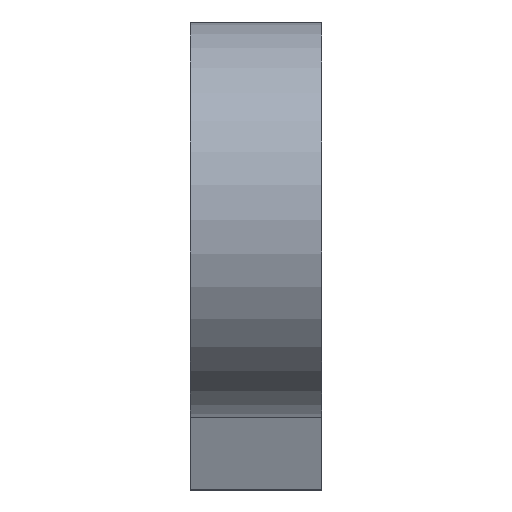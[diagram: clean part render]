
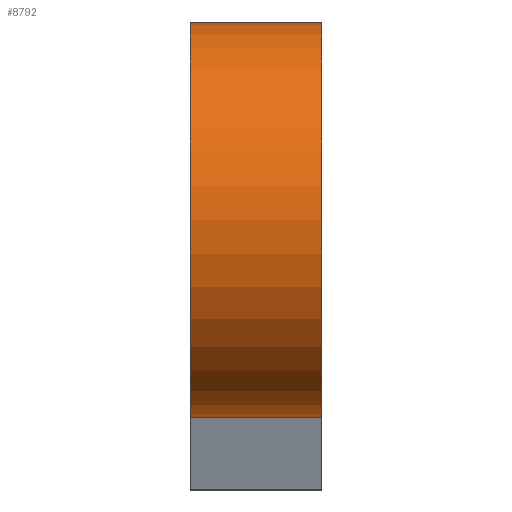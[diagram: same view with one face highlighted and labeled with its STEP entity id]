
A CAD part, left-side view. The second image highlights one B-rep face of the part: STEP entity #8792.
In plain terms, the highlighted cylindrical face has radius 4.763 mm (diameter 9.525 mm), a partial arc.
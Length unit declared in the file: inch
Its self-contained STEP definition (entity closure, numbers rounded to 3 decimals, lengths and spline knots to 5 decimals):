
#90 = ORIENTED_EDGE ( 'NONE', *, *, #9623, .F. ) ;
#205 = DIRECTION ( 'NONE',  ( 0., 1., 0. ) ) ;
#431 = AXIS2_PLACEMENT_3D ( 'NONE', #3101, #12238, #8604 ) ;
#798 = VERTEX_POINT ( 'NONE', #9430 ) ;
#1843 = VECTOR ( 'NONE', #15709, 39.37008 ) ;
#2014 = CIRCLE ( 'NONE', #6034, 0.1875 ) ;
#2235 = LINE ( 'NONE', #12896, #1843 ) ;
#3044 = CARTESIAN_POINT ( 'NONE',  ( -5.78, 0., -0.1875 ) ) ;
#3075 = CARTESIAN_POINT ( 'NONE',  ( -5.78, 0.125, 0.1875 ) ) ;
#3101 = CARTESIAN_POINT ( 'NONE',  ( -5.78, 0.125, 0. ) ) ;
#3228 = AXIS2_PLACEMENT_3D ( 'NONE', #15026, #205, #14409 ) ;
#4499 = VERTEX_POINT ( 'NONE', #9622 ) ;
#5235 = EDGE_CURVE ( 'NONE', #14225, #9681, #12883, .T. ) ;
#6034 = AXIS2_PLACEMENT_3D ( 'NONE', #15205, #10483, #16597 ) ;
#7655 = CARTESIAN_POINT ( 'NONE',  ( -5.78, 0., 0.1875 ) ) ;
#8604 = DIRECTION ( 'NONE',  ( 0., 0., -1. ) ) ;
#8727 = FACE_OUTER_BOUND ( 'NONE', #12923, .T. ) ;
#8792 = ADVANCED_FACE ( 'NONE', ( #8727 ), #14919, .T. ) ;
#9430 = CARTESIAN_POINT ( 'NONE',  ( -5.78, 0.125, 0.1875 ) ) ;
#9622 = CARTESIAN_POINT ( 'NONE',  ( -5.78, 0.125, -0.1875 ) ) ;
#9623 = EDGE_CURVE ( 'NONE', #798, #9681, #10559, .T. ) ;
#9681 = VERTEX_POINT ( 'NONE', #7655 ) ;
#10483 = DIRECTION ( 'NONE',  ( 0., 1., 0. ) ) ;
#10488 = EDGE_CURVE ( 'NONE', #4499, #14225, #2235, .T. ) ;
#10559 = LINE ( 'NONE', #3075, #14023 ) ;
#11103 = EDGE_CURVE ( 'NONE', #4499, #798, #2014, .T. ) ;
#11491 = ORIENTED_EDGE ( 'NONE', *, *, #5235, .T. ) ;
#11768 = ORIENTED_EDGE ( 'NONE', *, *, #10488, .T. ) ;
#12238 = DIRECTION ( 'NONE',  ( 0., -1., 0. ) ) ;
#12883 = CIRCLE ( 'NONE', #3228, 0.1875 ) ;
#12896 = CARTESIAN_POINT ( 'NONE',  ( -5.78, 0.125, -0.1875 ) ) ;
#12923 = EDGE_LOOP ( 'NONE', ( #11491, #90, #13425, #11768 ) ) ;
#13425 = ORIENTED_EDGE ( 'NONE', *, *, #11103, .F. ) ;
#14023 = VECTOR ( 'NONE', #16179, 39.37008 ) ;
#14225 = VERTEX_POINT ( 'NONE', #3044 ) ;
#14409 = DIRECTION ( 'NONE',  ( 0., 0., 1. ) ) ;
#14919 = CYLINDRICAL_SURFACE ( 'NONE', #431, 0.1875 ) ;
#15026 = CARTESIAN_POINT ( 'NONE',  ( -5.78, 0., 0. ) ) ;
#15205 = CARTESIAN_POINT ( 'NONE',  ( -5.78, 0.125, 0. ) ) ;
#15709 = DIRECTION ( 'NONE',  ( 0., -1., 0. ) ) ;
#16179 = DIRECTION ( 'NONE',  ( 0., -1., 0. ) ) ;
#16597 = DIRECTION ( 'NONE',  ( 0., 0., 1. ) ) ;
